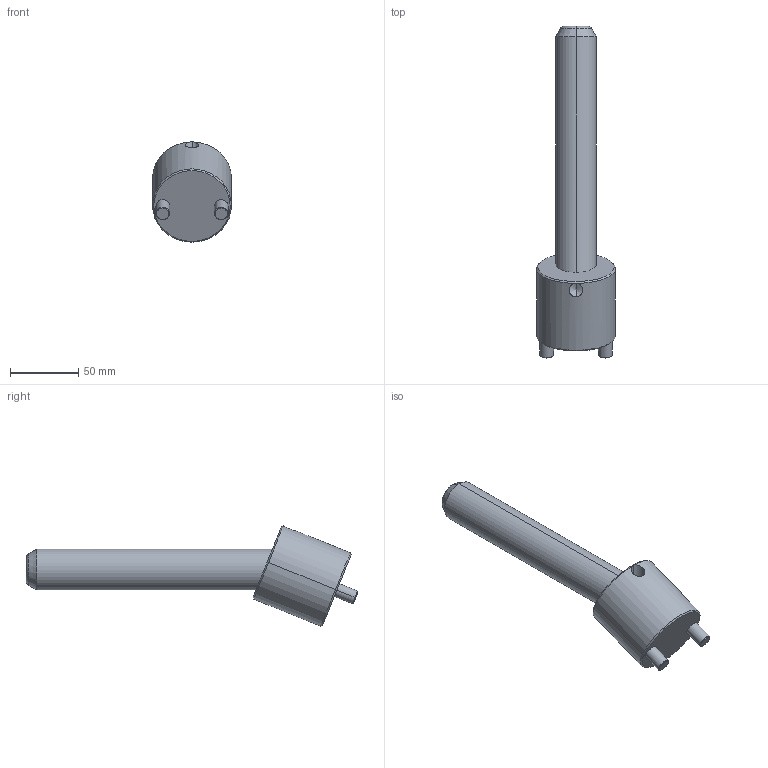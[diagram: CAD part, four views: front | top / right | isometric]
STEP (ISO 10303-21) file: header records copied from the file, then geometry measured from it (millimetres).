
FILE_DESCRIPTION(('CATIA V5 STEP Exchange'),'2;1');
FILE_NAME('C:\Users\Raffaele\Desktop\3D BOLEX\3D FILES CF BOLEX\19-INCLINED ASSEMBLY REF_CI\CI2230175.stp','2019-06-24T07:00:00+00:00',('none'),('none'),'CATIA Version 5 Release 20 GA (IN-10)','CATIA V5 STEP AP203','none');
FILE_SCHEMA(('CONFIG_CONTROL_DESIGN'));
Length unit declared in the file: millimetre
Products named in the file (1): CI2230175
Assembly tree (2 placements, depth 2):
  CI2230175
    #58
    #590
Bounding box: 58 x 243.84 x 73.63 mm (x, y, z)
Volume: 267475.2 mm3; surface area: 42504.9 mm2
Topology: 2 solids, 2 shells, 39 faces, 85 edges, 49 vertices
Faces by surface type: cone 14, cylinder 14, plane 7, torus 4
Entity records: 1582 total; most frequent: CARTESIAN_POINT 705, ORIENTED_EDGE 166, DIRECTION 148, EDGE_CURVE 83, AXIS2_PLACEMENT_3D 75, VERTEX_POINT 49, EDGE_LOOP 42, ADVANCED_FACE 39
